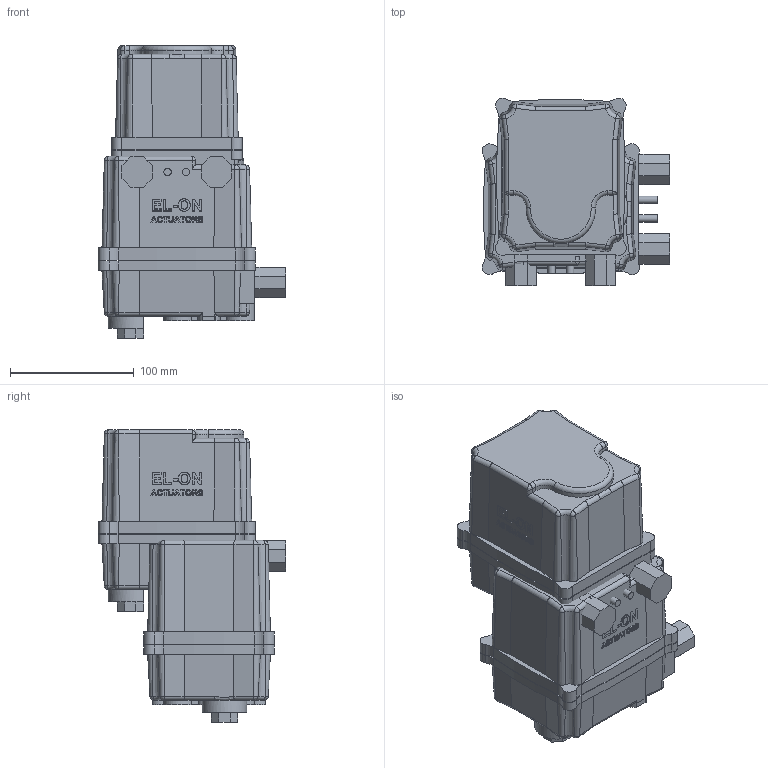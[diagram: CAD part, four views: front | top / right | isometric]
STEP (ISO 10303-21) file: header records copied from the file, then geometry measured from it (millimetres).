
FILE_DESCRIPTION( ( 'Unknown' ), '1' );
FILE_NAME( 'J:/Muud/ROOTSI BPS 3D vidinad/Kuulkraanid/Roostevaba kuulkraanid/Ball valve BPS 2420/Ball valve with electric actuator BPS/STEP formaat/BPS 2420015E ball valve DN15.stp', 'Unknown', ( 'Unknown' ), ( 'Unknown' ), 'PSStep 10.1', 'Unknown', ' ' );
FILE_SCHEMA( ( 'AUTOMOTIVE_DESIGN { 1 0 10303 214 1 1 1 1 }' ) );
Length unit declared in the file: millimetre
Products named in the file (4): Assem1; BPS 2420015 ball valve DN15; BPS 8005058 electric actuator DN40-100
Bounding box: 151.5 x 151.5 x 236.3 mm (x, y, z)
Volume: 3080928.5 mm3; surface area: 281390.2 mm2
Topology: 6 solids, 6 shells, 1318 faces, 3392 edges, 2206 vertices
Faces by surface type: plane 590, cylinder 312, extrusion 190, bspline 122, cone 82, torus 22
Full cylindrical faces by diameter (mm): 4.134 x16, 4.917 x8, 6 x28, 6.647 x8, 15 x2, 18.631 x4, 21 x2, 31 x2, 34 x2
Entity records: 33129 total; most frequent: CARTESIAN_POINT 13008, ORIENTED_EDGE 3170, DIRECTION 2582, EDGE_CURVE 1585, VERTEX_POINT 1079, VECTOR 880, AXIS2_PLACEMENT_3D 851, EDGE_LOOP 808
